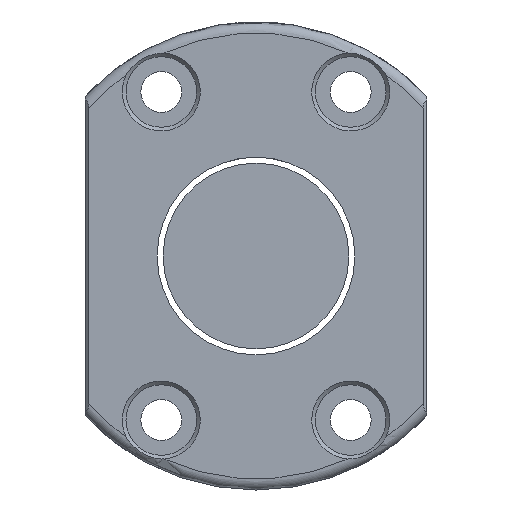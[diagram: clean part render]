
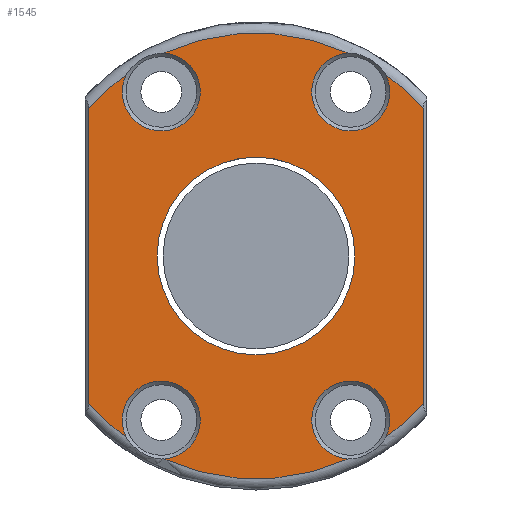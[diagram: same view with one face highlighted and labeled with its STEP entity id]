
A CAD part, left-side view. The second image highlights one B-rep face of the part: STEP entity #1545.
In plain terms, the highlighted planar face has unit normal (-1, 0, 0).
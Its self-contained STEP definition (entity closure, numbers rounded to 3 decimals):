
#11 = ORIENTED_EDGE ( 'NONE', *, *, #2847, .T. ) ;
#82 = CARTESIAN_POINT ( 'NONE',  ( -46., 0., 0. ) ) ;
#117 = EDGE_CURVE ( 'NONE', #378, #3114, #1857, .T. ) ;
#118 = AXIS2_PLACEMENT_3D ( 'NONE', #3132, #347, #2392 ) ;
#142 = FACE_BOUND ( 'NONE', #963, .T. ) ;
#160 = DIRECTION ( 'NONE',  ( 0., 0., 1. ) ) ;
#161 = ORIENTED_EDGE ( 'NONE', *, *, #826, .T. ) ;
#239 = VERTEX_POINT ( 'NONE', #766 ) ;
#347 = DIRECTION ( 'NONE',  ( -1., 0., 0. ) ) ;
#378 = VERTEX_POINT ( 'NONE', #1015 ) ;
#397 = CARTESIAN_POINT ( 'NONE',  ( -46., -12.75, -22.084 ) ) ;
#416 = DIRECTION ( 'NONE',  ( 0., 0., 1. ) ) ;
#419 = LINE ( 'NONE', #1424, #1919 ) ;
#494 = ORIENTED_EDGE ( 'NONE', *, *, #1504, .T. ) ;
#523 = DIRECTION ( 'NONE',  ( 0., 0., 1. ) ) ;
#529 = LINE ( 'NONE', #1256, #1652 ) ;
#556 = CARTESIAN_POINT ( 'NONE',  ( -46., -12.391, 27.321 ) ) ;
#588 = VERTEX_POINT ( 'NONE', #833 ) ;
#641 = VERTEX_POINT ( 'NONE', #2828 ) ;
#695 = DIRECTION ( 'NONE',  ( 0., 0., 1. ) ) ;
#709 = AXIS2_PLACEMENT_3D ( 'NONE', #1280, #2317, #523 ) ;
#740 = CARTESIAN_POINT ( 'NONE',  ( -46., 12.75, 22.084 ) ) ;
#766 = CARTESIAN_POINT ( 'NONE',  ( -46., -17.465, -24.392 ) ) ;
#786 = DIRECTION ( 'NONE',  ( 1., 0., 0. ) ) ;
#826 = EDGE_CURVE ( 'NONE', #2726, #3254, #529, .T. ) ;
#833 = CARTESIAN_POINT ( 'NONE',  ( -46., 0., -13.3 ) ) ;
#857 = AXIS2_PLACEMENT_3D ( 'NONE', #2423, #1383, #160 ) ;
#860 = CIRCLE ( 'NONE', #118, 30. ) ;
#911 = CIRCLE ( 'NONE', #709, 30. ) ;
#958 = DIRECTION ( 'NONE',  ( 1., 0., 0. ) ) ;
#963 = EDGE_LOOP ( 'NONE', ( #2450 ) ) ;
#968 = CARTESIAN_POINT ( 'NONE',  ( -46., 0., 0. ) ) ;
#984 = CARTESIAN_POINT ( 'NONE',  ( -46., 17.465, -24.392 ) ) ;
#1015 = CARTESIAN_POINT ( 'NONE',  ( -46., 12.391, -27.321 ) ) ;
#1023 = CIRCLE ( 'NONE', #2604, 5.25 ) ;
#1101 = DIRECTION ( 'NONE',  ( -1., 0., 0. ) ) ;
#1109 = DIRECTION ( 'NONE',  ( 1., 0., 0. ) ) ;
#1112 = EDGE_CURVE ( 'NONE', #2536, #2252, #3134, .T. ) ;
#1134 = CARTESIAN_POINT ( 'NONE',  ( -46., 17.465, 24.392 ) ) ;
#1160 = ORIENTED_EDGE ( 'NONE', *, *, #1942, .T. ) ;
#1192 = CARTESIAN_POINT ( 'NONE',  ( -46., -12.391, -27.321 ) ) ;
#1221 = DIRECTION ( 'NONE',  ( 0., 0., 1. ) ) ;
#1256 = CARTESIAN_POINT ( 'NONE',  ( -46., -22.5, 21.523 ) ) ;
#1280 = CARTESIAN_POINT ( 'NONE',  ( -46., 0., 0. ) ) ;
#1328 = EDGE_CURVE ( 'NONE', #641, #2598, #911, .T. ) ;
#1352 = CARTESIAN_POINT ( 'NONE',  ( -46., 31.5, 0. ) ) ;
#1383 = DIRECTION ( 'NONE',  ( -1., 0., 0. ) ) ;
#1424 = CARTESIAN_POINT ( 'NONE',  ( -46., 22.5, -21.523 ) ) ;
#1504 = EDGE_CURVE ( 'NONE', #239, #2726, #2978, .T. ) ;
#1525 = ORIENTED_EDGE ( 'NONE', *, *, #1328, .T. ) ;
#1534 = ORIENTED_EDGE ( 'NONE', *, *, #2907, .T. ) ;
#1535 = CARTESIAN_POINT ( 'NONE',  ( -46., 22.5, 19.843 ) ) ;
#1545 = ADVANCED_FACE ( 'NONE', ( #2908, #142 ), #2890, .T. ) ;
#1557 = CIRCLE ( 'NONE', #1974, 13.3 ) ;
#1578 = EDGE_CURVE ( 'NONE', #3114, #239, #3029, .T. ) ;
#1652 = VECTOR ( 'NONE', #2288, 1000. ) ;
#1690 = ORIENTED_EDGE ( 'NONE', *, *, #1112, .T. ) ;
#1722 = ORIENTED_EDGE ( 'NONE', *, *, #117, .T. ) ;
#1827 = DIRECTION ( 'NONE',  ( 0., 0., 1. ) ) ;
#1857 = CIRCLE ( 'NONE', #2294, 30. ) ;
#1864 = DIRECTION ( 'NONE',  ( 0., 0., 1. ) ) ;
#1919 = VECTOR ( 'NONE', #3187, 1000. ) ;
#1931 = DIRECTION ( 'NONE',  ( 0., 0., -1. ) ) ;
#1942 = EDGE_CURVE ( 'NONE', #2757, #2536, #2346, .T. ) ;
#1974 = AXIS2_PLACEMENT_3D ( 'NONE', #2744, #958, #1931 ) ;
#1987 = ORIENTED_EDGE ( 'NONE', *, *, #2479, .T. ) ;
#2049 = CARTESIAN_POINT ( 'NONE',  ( -46., 0., 0. ) ) ;
#2086 = VERTEX_POINT ( 'NONE', #556 ) ;
#2108 = DIRECTION ( 'NONE',  ( 0., 0., 1. ) ) ;
#2126 = EDGE_CURVE ( 'NONE', #2598, #378, #2509, .T. ) ;
#2131 = AXIS2_PLACEMENT_3D ( 'NONE', #968, #2483, #695 ) ;
#2138 = VERTEX_POINT ( 'NONE', #3040 ) ;
#2166 = EDGE_CURVE ( 'NONE', #2138, #2086, #1023, .T. ) ;
#2188 = AXIS2_PLACEMENT_3D ( 'NONE', #3055, #3090, #1827 ) ;
#2218 = DIRECTION ( 'NONE',  ( 1., 0., 0. ) ) ;
#2226 = ORIENTED_EDGE ( 'NONE', *, *, #1578, .T. ) ;
#2252 = VERTEX_POINT ( 'NONE', #1535 ) ;
#2271 = DIRECTION ( 'NONE',  ( 0., 0., 1. ) ) ;
#2286 = CARTESIAN_POINT ( 'NONE',  ( -46., -22.5, 19.843 ) ) ;
#2288 = DIRECTION ( 'NONE',  ( 0., 0., 1. ) ) ;
#2290 = ORIENTED_EDGE ( 'NONE', *, *, #2126, .T. ) ;
#2294 = AXIS2_PLACEMENT_3D ( 'NONE', #2049, #3073, #2271 ) ;
#2299 = CIRCLE ( 'NONE', #3032, 30. ) ;
#2302 = CARTESIAN_POINT ( 'NONE',  ( -46., -12.75, 22.084 ) ) ;
#2317 = DIRECTION ( 'NONE',  ( -1., 0., 0. ) ) ;
#2346 = CIRCLE ( 'NONE', #2458, 5.25 ) ;
#2375 = ORIENTED_EDGE ( 'NONE', *, *, #2166, .T. ) ;
#2392 = DIRECTION ( 'NONE',  ( 0., 0., 1. ) ) ;
#2423 = CARTESIAN_POINT ( 'NONE',  ( -46., 0., 0. ) ) ;
#2450 = ORIENTED_EDGE ( 'NONE', *, *, #2974, .T. ) ;
#2458 = AXIS2_PLACEMENT_3D ( 'NONE', #740, #2218, #1221 ) ;
#2479 = EDGE_CURVE ( 'NONE', #3254, #2138, #2299, .T. ) ;
#2483 = DIRECTION ( 'NONE',  ( -1., 0., 0. ) ) ;
#2509 = CIRCLE ( 'NONE', #2188, 5.25 ) ;
#2536 = VERTEX_POINT ( 'NONE', #1134 ) ;
#2552 = EDGE_LOOP ( 'NONE', ( #161, #1987, #2375, #11, #1160, #1690, #1534, #1525, #2290, #1722, #2226, #494 ) ) ;
#2598 = VERTEX_POINT ( 'NONE', #984 ) ;
#2604 = AXIS2_PLACEMENT_3D ( 'NONE', #2302, #786, #2791 ) ;
#2726 = VERTEX_POINT ( 'NONE', #3150 ) ;
#2744 = CARTESIAN_POINT ( 'NONE',  ( -46., 0., 0. ) ) ;
#2757 = VERTEX_POINT ( 'NONE', #3169 ) ;
#2791 = DIRECTION ( 'NONE',  ( 0., 0., 1. ) ) ;
#2818 = AXIS2_PLACEMENT_3D ( 'NONE', #1352, #3165, #416 ) ;
#2828 = CARTESIAN_POINT ( 'NONE',  ( -46., 22.5, -19.843 ) ) ;
#2847 = EDGE_CURVE ( 'NONE', #2086, #2757, #860, .T. ) ;
#2890 = PLANE ( 'NONE',  #2818 ) ;
#2907 = EDGE_CURVE ( 'NONE', #2252, #641, #419, .T. ) ;
#2908 = FACE_OUTER_BOUND ( 'NONE', #2552, .T. ) ;
#2974 = EDGE_CURVE ( 'NONE', #588, #588, #1557, .T. ) ;
#2978 = CIRCLE ( 'NONE', #857, 30. ) ;
#3029 = CIRCLE ( 'NONE', #3251, 5.25 ) ;
#3032 = AXIS2_PLACEMENT_3D ( 'NONE', #82, #1101, #2108 ) ;
#3040 = CARTESIAN_POINT ( 'NONE',  ( -46., -17.465, 24.392 ) ) ;
#3055 = CARTESIAN_POINT ( 'NONE',  ( -46., 12.75, -22.084 ) ) ;
#3073 = DIRECTION ( 'NONE',  ( -1., 0., 0. ) ) ;
#3090 = DIRECTION ( 'NONE',  ( 1., 0., 0. ) ) ;
#3114 = VERTEX_POINT ( 'NONE', #1192 ) ;
#3132 = CARTESIAN_POINT ( 'NONE',  ( -46., 0., 0. ) ) ;
#3134 = CIRCLE ( 'NONE', #2131, 30. ) ;
#3150 = CARTESIAN_POINT ( 'NONE',  ( -46., -22.5, -19.843 ) ) ;
#3165 = DIRECTION ( 'NONE',  ( -1., 0., 0. ) ) ;
#3169 = CARTESIAN_POINT ( 'NONE',  ( -46., 12.391, 27.321 ) ) ;
#3187 = DIRECTION ( 'NONE',  ( 0., 0., -1. ) ) ;
#3251 = AXIS2_PLACEMENT_3D ( 'NONE', #397, #1109, #1864 ) ;
#3254 = VERTEX_POINT ( 'NONE', #2286 ) ;
